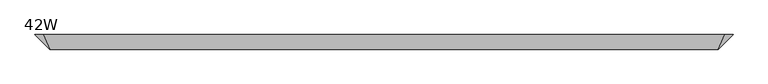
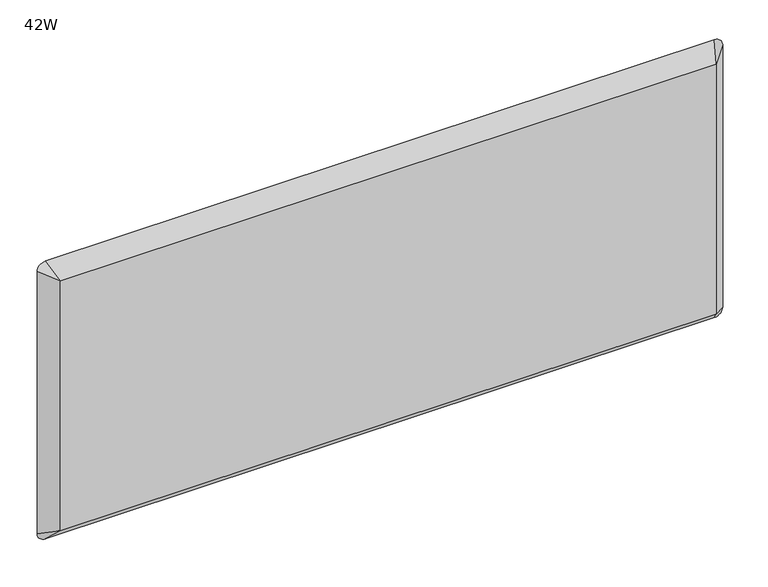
"""IFC4 building model written with IfcOpenShell, lengths in millimetres: furniture geometry, Steelcase - Answer Solution - Tackboards for Use with Wall Channels : 42W."""

import ifcopenshell
import ifcopenshell.guid

model = None  # the IFC model being written
_history = None  # IfcOwnerHistory: only IFC2X3 demands one
_inside = {}  # id of a spatial element -> (the spatial element, [elements in it])
_under = {}  # id of a project, library or spatial element -> (it, [spatial elements below it])
_declared = {}  # id of a project -> (the project, [libraries it declares])
_typed = {}  # id of a type object -> (the type object, [elements of that type])
_made_of = {}  # id of a material, layer set ... -> (it, [elements and type objects made of it])


def new_model(schema):
    """Start an empty IFC model of exactly this schema.

    Asked for "IFC4X3", IfcOpenShell would pick the latest addendum, in which some entities
    have other attributes; the version numbers below select the first issue.
    IFC2X3 requires an IfcOwnerHistory on every rooted entity: one is made here for all.
    """
    global model, _history
    if schema == "IFC4X3":
        model = ifcopenshell.file(schema_version=(4, 3, 0, 0))
    else:
        model = ifcopenshell.file(schema=schema)
    _inside.clear()
    _under.clear()
    _declared.clear()
    _typed.clear()
    _made_of.clear()
    _history = None
    if model.schema == "IFC2X3":
        org = make("IfcOrganization", Name="unknown")
        user = make(
            "IfcPersonAndOrganization",
            ThePerson=make("IfcPerson", FamilyName="unknown"),
            TheOrganization=org,
        )
        app = make(
            "IfcApplication",
            ApplicationDeveloper=org,
            Version="unknown",
            ApplicationFullName="unknown",
            ApplicationIdentifier="unknown",
        )
        _history = make(
            "IfcOwnerHistory",
            OwningUser=user,
            OwningApplication=app,
            ChangeAction="ADDED",
            CreationDate=0,
        )
    return model


def make(cls, **values):
    """One entity of the class cls with the attributes given. An attribute that is None is left unset."""
    return model.create_entity(
        cls, **{name: value for name, value in values.items() if value is not None}
    )


def rooted(cls, **values):
    """An entity with a GlobalId (a new one), such as an element, a storey or a relation."""
    return make(cls, GlobalId=ifcopenshell.guid.new(), OwnerHistory=_history, **values)


def si_unit(unit_type, name, prefix=None):
    """IfcSIUnit, for example si_unit("LENGTHUNIT", "METRE", prefix="MILLI")."""
    return make("IfcSIUnit", UnitType=unit_type, Prefix=prefix, Name=name)


def assignment(units):
    """IfcUnitAssignment: the units of a project."""
    return None if units is None else make("IfcUnitAssignment", Units=units)


def point(xyz):
    """IfcCartesianPoint."""
    return None if xyz is None else make("IfcCartesianPoint", Coordinates=xyz)


def direction(xyz):
    """IfcDirection."""
    return None if xyz is None else make("IfcDirection", DirectionRatios=xyz)


def frame(location, z_axis=None, x_axis=None):
    """IfcAxis2Placement3D, a coordinate frame: its origin and axes. An axis left out is left unset."""
    return make(
        "IfcAxis2Placement3D",
        Location=point(location),
        Axis=direction(z_axis),
        RefDirection=direction(x_axis),
    )


def origin():
    """The frame at (0, 0, 0) with its axes left unset."""
    return frame((0.0, 0.0, 0.0))


def place(relative_to, where):
    """IfcLocalPlacement: puts the frame where relative to a parent placement (None: the world)."""
    return make(
        "IfcLocalPlacement", PlacementRelTo=relative_to, RelativePlacement=where
    )


def context(
    kind, dimensions, precision=None, world=None, true_north=None, identifier=None
):
    """IfcGeometricRepresentationContext, for example the 3D "Model" context."""
    return make(
        "IfcGeometricRepresentationContext",
        ContextIdentifier=identifier,
        ContextType=kind,
        CoordinateSpaceDimension=dimensions,
        Precision=precision,
        WorldCoordinateSystem=world,
        TrueNorth=true_north,
    )


def project(units=None, contexts=None):
    """IfcProject with its units and contexts."""
    return rooted(
        "IfcProject",
        Name="project",
        RepresentationContexts=contexts,
        UnitsInContext=assignment(units),
    )


def spatial(cls, under=None, at=None, **own):
    """A site, building, storey or space (cls), placed at a placement, below another one or the project."""
    s = rooted(cls, ObjectPlacement=at, **own)
    if under is not None:
        _under.setdefault(under.id(), (under, []))[1].append(s)
    return s


def circle_curve(where, radius):
    """IfcCircle in the frame where."""
    return make("IfcCircle", Position=where, Radius=radius)


def shape(context_of_items, identifier, shape_type, items):
    """IfcShapeRepresentation: the items that make up one representation, for example the "Body"."""
    return make(
        "IfcShapeRepresentation",
        ContextOfItems=context_of_items,
        RepresentationIdentifier=identifier,
        RepresentationType=shape_type,
        Items=items,
    )


def source(mapping_origin, context_of_items, identifier, shape_type, items):
    """IfcRepresentationMap: a shape defined once, which mapped items show again and again."""
    return make(
        "IfcRepresentationMap",
        MappingOrigin=mapping_origin,
        MappedRepresentation=shape(context_of_items, identifier, shape_type, items),
    )


def transform(
    local_origin,
    x_axis=None,
    y_axis=None,
    z_axis=None,
    scale=None,
    scale2=None,
    scale3=None,
    uniform=True,
):
    """IfcCartesianTransformationOperator3D, or its non-uniform kind. x_axis, y_axis, z_axis: its Axis1, 2, 3."""
    if uniform:
        return make(
            "IfcCartesianTransformationOperator3D",
            Axis1=direction(x_axis),
            Axis2=direction(y_axis),
            LocalOrigin=point(local_origin),
            Scale=scale,
            Axis3=direction(z_axis),
        )
    return make(
        "IfcCartesianTransformationOperator3DnonUniform",
        Axis1=direction(x_axis),
        Axis2=direction(y_axis),
        LocalOrigin=point(local_origin),
        Scale=scale,
        Axis3=direction(z_axis),
        Scale2=scale2,
        Scale3=scale3,
    )


def mapped(mapping_source, mapping_target):
    """IfcMappedItem: shows the shape of a source again, moved by a transform."""
    return make(
        "IfcMappedItem", MappingSource=mapping_source, MappingTarget=mapping_target
    )


def made_of(thing, what):
    """Note that an element or type object is made of a material, layer set ...; save() writes the relation."""
    if what is not None:
        _made_of.setdefault(what.id(), (what, []))[1].append(thing)
    return thing


def element(
    cls,
    number,
    at=None,
    inside=None,
    cuts=None,
    type_object=None,
    material=None,
    context=None,
    identifier="Body",
    shape_type=None,
    held_by="IfcProductDefinitionShape",
    body=None,
    shapes=None,
    **own,
):
    """One element of the class cls, such as IfcWall. Its Tag is "e" and its number.

    at: its placement. inside: the storey or other place that contains it. cuts: it is an
    opening in that element (IfcRelVoidsElement). A single representation is given by context,
    identifier, shape_type and body (its items); several are given by shapes. held_by: the class
    of the entity that holds the representations. save() writes the other relations.
    """
    e = rooted(cls, Tag="e%d" % number, ObjectPlacement=at, **own)
    if body is not None:
        shapes = [shape(context, identifier, shape_type, body)]
    if shapes is not None:
        e.Representation = make(held_by, Representations=shapes)
    if inside is not None:
        _inside.setdefault(inside.id(), (inside, []))[1].append(e)
    if cuts is not None:
        rooted(
            "IfcRelVoidsElement", RelatingBuildingElement=cuts, RelatedOpeningElement=e
        )
    if type_object is not None:
        _typed.setdefault(type_object.id(), (type_object, []))[1].append(e)
    return made_of(e, material)


def aggregate(whole, parts):
    """IfcRelAggregates: a whole, such as a stair, and the parts it consists of."""
    return rooted("IfcRelAggregates", RelatingObject=whole, RelatedObjects=parts)


def save(model, path):
    """Write the relations noted so far, then the file.

    IfcRelAggregates (storeys below a building ...), IfcRelContainedInSpatialStructure (elements
    in a storey), IfcRelDefinesByType, IfcRelAssociatesMaterial and IfcRelDeclares: one each for
    every whole, place, type object, material and project.
    """
    for whole, parts in _under.values():
        aggregate(whole, parts)
    for where, things in _inside.values():
        rooted(
            "IfcRelContainedInSpatialStructure",
            RelatedElements=things,
            RelatingStructure=where,
        )
    for kind, things in _typed.values():
        rooted("IfcRelDefinesByType", RelatedObjects=things, RelatingType=kind)
    for what, things in _made_of.values():
        rooted("IfcRelAssociatesMaterial", RelatedObjects=things, RelatingMaterial=what)
    for by, libraries in _declared.values():
        rooted("IfcRelDeclares", RelatingContext=by, RelatedDefinitions=libraries)
    model.write(path)


def plane_surface(at):
    """IfcPlane: the flat surface through the origin of the frame at, square to its z axis."""
    return make("IfcPlane", Position=at)


def spline_surface(u_degree, v_degree, points, u_multiplicities, v_multiplicities, u_knots, v_knots, weights=None):
    """IfcBSplineSurfaceWithKnots; with weights, IfcRationalBSplineSurfaceWithKnots. points: one row for each step in u."""
    own = dict(
        UDegree=u_degree,
        VDegree=v_degree,
        ControlPointsList=[[point(p) for p in row] for row in points],
        SurfaceForm="UNSPECIFIED",
        UClosed=False,
        VClosed=False,
        SelfIntersect=False,
        UMultiplicities=u_multiplicities,
        VMultiplicities=v_multiplicities,
        UKnots=u_knots,
        VKnots=v_knots,
        KnotSpec="UNSPECIFIED",
    )
    if weights is None:
        return make("IfcBSplineSurfaceWithKnots", **own)
    return make("IfcRationalBSplineSurfaceWithKnots", WeightsData=weights, **own)


def advanced_brep(points, edges, surfaces, faces):
    """IfcAdvancedBrep: a solid bounded by faces that lie on surfaces and meet in shared edges.

    An edge is (start, end): straight between two places in points (the first is 0);
    or (start, end, curve); or (start, end, curve, False) where it runs against its curve.
    A face is (place in surfaces, loops), or (place, loops, False) where it looks against
    its surface's normal. A loop lists edges by number (the first is 1), with a minus sign
    where the edge is run from its end to its start. The first loop is the outer one.
    """
    corners = [point(p) for p in points]
    vertices = [make("IfcVertexPoint", VertexGeometry=c) for c in corners]
    made = []
    for start, end, *more in edges:
        made.append(
            make(
                "IfcEdgeCurve",
                EdgeStart=vertices[start],
                EdgeEnd=vertices[end],
                EdgeGeometry=more[0] if more else make("IfcPolyline", Points=[corners[start], corners[end]]),
                SameSense=more[1] if len(more) > 1 else True,
            )
        )
    hull = []
    for where, loops, *sense in faces:
        bounds = []
        for j, loop in enumerate(loops):
            ring = [make("IfcOrientedEdge", EdgeElement=made[abs(k) - 1], Orientation=k > 0) for k in loop]
            bounds.append(
                make(
                    "IfcFaceOuterBound" if j == 0 else "IfcFaceBound",
                    Bound=make("IfcEdgeLoop", EdgeList=ring),
                    Orientation=True,
                )
            )
        hull.append(make("IfcAdvancedFace", Bounds=bounds, FaceSurface=surfaces[where], SameSense=sense[0] if sense else True))
    return make("IfcAdvancedBrep", Outer=make("IfcClosedShell", CfsFaces=hull))


def furniture_42w_5b713fd4(model_context):
    return source(origin(), model_context, "Body", "AdvancedBrep", [
        advanced_brep(
        [(1082.04, -58.549664, 1158.24), (60.96, -58.549664, 1158.24), (60.96, -58.549664, 746.76), (1082.04, -58.549664, 746.76), (1092.2, -36.19754, 1181.1), (1104.9, -36.19754, 1168.4), (1104.9, -36.19754, 736.6), (1092.2, -36.19754, 723.9), (50.8, -36.19754, 723.9), (38.1, -36.19754, 736.6), (38.1, -36.19754, 1168.4), (50.8, -36.19754, 1181.1)],
        [
            (0, 1),
            (1, 2),
            (2, 3),
            (3, 0),
            (4, 5, circle_curve(frame((1092.2, -36.19754, 1168.4), z_axis=(0.0, 1.0, 0.0), x_axis=(-1.0, 0.0, 0.0)), 12.7)),
            (5, 6),
            (6, 7, circle_curve(frame((1092.2, -36.19754, 736.6), z_axis=(0.0, 1.0, 0.0), x_axis=(-1.0, 0.0, 0.0)), 12.7)),
            (7, 8),
            (8, 9, circle_curve(frame((50.8, -36.19754, 736.6), z_axis=(0.0, 1.0, 0.0), x_axis=(-1.0, 0.0, 0.0)), 12.7)),
            (9, 10),
            (10, 11, circle_curve(frame((50.8, -36.19754, 1168.4), z_axis=(0.0, 1.0, 0.0), x_axis=(-1.0, 0.0, 0.0)), 12.7)),
            (11, 4),
            (4, 0),
            (0, 5),
            (3, 6),
            (3, 7),
            (2, 8),
            (2, 9),
            (1, 10),
            (1, 11),
        ],
        [
            plane_surface(frame((571.5, -58.549664, 952.5), z_axis=(0.0, -1.0, 0.0), x_axis=(1.0, 0.0, 0.0))),
            plane_surface(frame((571.5, -36.19754, 952.5), z_axis=(0.0, 1.0, 0.0), x_axis=(1.0, 0.0, 0.0))),
            spline_surface(2, 1, [[(1104.9, -36.19754, 1168.4), (1082.04, -58.549664, 1158.24)], [(1104.9000000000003, -36.19754, 1181.1000000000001), (1082.04, -58.549664, 1158.24)], [(1092.2, -36.19754, 1181.1), (1082.04, -58.549664, 1158.24)]], [3, 3], [2, 2], [0.0, 1.0], [0.0, 1.0], weights=[[1.0, 1.0], [0.7071067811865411, 0.7071067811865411], [1.0, 1.0]]),
            plane_surface(frame((1104.9, -36.19754, 952.5), z_axis=(0.6991196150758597, -0.715004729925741, 0.0), x_axis=(0.0, 0.0, 1.0))),
            spline_surface(2, 1, [[(1092.2, -36.19754, 723.9), (1082.04, -58.549664, 746.76)], [(1104.9, -36.19754, 723.9), (1082.04, -58.549664, 746.76)], [(1104.9, -36.19754, 736.6), (1082.04, -58.549664, 746.76)]], [3, 3], [2, 2], [0.0, 1.0], [0.0, 1.0], weights=[[1.0, 1.0], [0.7071067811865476, 0.7071067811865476], [1.0, 1.0]]),
            plane_surface(frame((571.5, -36.19754, 723.9), z_axis=(0.0, -0.7150047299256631, -0.6991196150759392), x_axis=(1.0, 0.0, 0.0))),
            spline_surface(2, 1, [[(38.1, -36.19754, 736.6), (60.96, -58.549664, 746.76)], [(38.10000000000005, -36.19754, 723.9), (60.96, -58.549664, 746.76)], [(50.8, -36.19754, 723.9), (60.96, -58.549664, 746.76)]], [3, 3], [2, 2], [0.0, 1.0], [0.0, 1.0], weights=[[1.0, 1.0], [0.7071067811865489, 0.7071067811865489], [1.0, 1.0]]),
            plane_surface(frame((38.1, -36.19754, 952.5), z_axis=(-0.699119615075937, -0.7150047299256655, 0.0), x_axis=(0.0, 0.0, -1.0))),
            spline_surface(2, 1, [[(50.8, -36.19754, 1181.1), (60.96, -58.549664, 1158.24)], [(38.10000000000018, -36.19754, 1181.0999999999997), (60.96, -58.549664, 1158.24)], [(38.1, -36.19754, 1168.4), (60.96, -58.549664, 1158.24)]], [3, 3], [2, 2], [0.0, 1.0], [0.0, 1.0], weights=[[1.0, 1.0], [0.7071067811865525, 0.7071067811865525], [1.0, 1.0]]),
            plane_surface(frame((571.5, -36.19754, 1181.1), z_axis=(0.0, -0.7150047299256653, 0.6991196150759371), x_axis=(-1.0, 0.0, 0.0))),
        ],
        [
            (0, [[1, 2, 3, 4]]),
            (1, [[5, 6, 7, 8, 9, 10, 11, 12]]),
            (2, [[-5, 13, 14]]),
            (3, [[-6, -14, -4, 15]]),
            (4, [[-7, -15, 16]]),
            (5, [[-8, -16, -3, 17]]),
            (6, [[-9, -17, 18]]),
            (7, [[-10, -18, -2, 19]]),
            (8, [[-11, -19, 20]]),
            (9, [[-12, -20, -1, -13]]),
        ],
    ),
    ])


if __name__ == "__main__":
    model = new_model("IFC4")
    model_context = context("Model", 3, world=origin())
    ifc_project = project(units=[si_unit("LENGTHUNIT", "METRE", prefix="MILLI")], contexts=[model_context])
    site = spatial("IfcSite", under=ifc_project)
    building = spatial("IfcBuilding", under=site)
    placement = place(None, origin())
    furniture_42w_shape = furniture_42w_5b713fd4(model_context)
    element("IfcFurniture", 1, ObjectType="Steelcase - Answer Solution - Tackboards for Use with Wall Channels : 42W", at=placement, inside=building, context=model_context, shape_type="MappedRepresentation", body=[
        mapped(furniture_42w_shape, transform((0.0, 0.0, 0.0), x_axis=(1.0, 0.0, 0.0), y_axis=(0.0, 1.0, 0.0), z_axis=(0.0, 0.0, 1.0))),
    ])
    save(model, "model.ifc")
